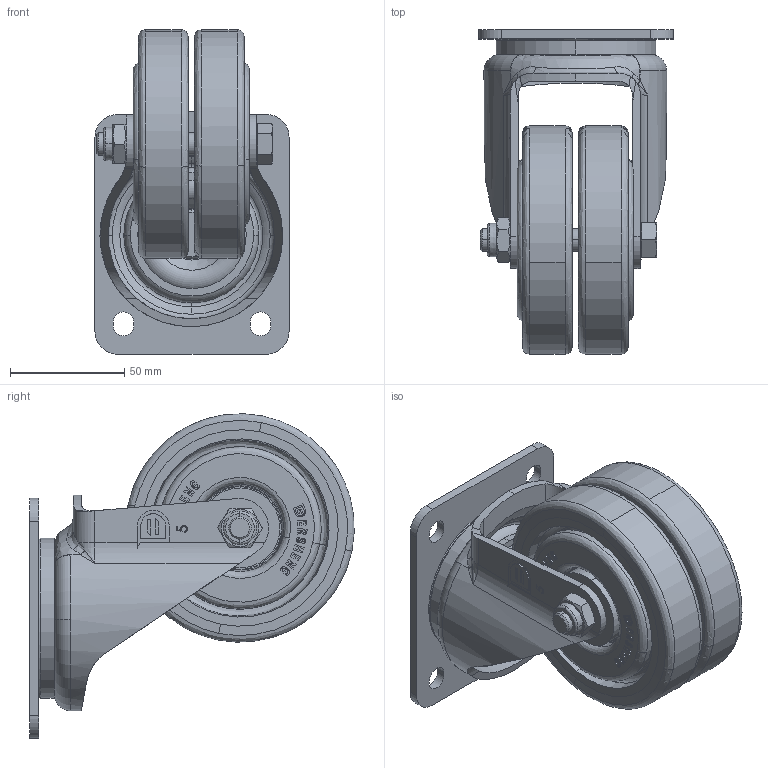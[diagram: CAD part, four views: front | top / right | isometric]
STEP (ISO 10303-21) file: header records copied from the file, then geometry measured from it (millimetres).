
FILE_DESCRIPTION (( 'STEP AP203' ), '1' );
FILE_NAME ('68ÏµÁÐ -šWÒŽµ×°å4´ç»î„ÓAQPUÝ†.STEP', '2025-07-18T03:52:29', ( '' ), ( '' ), 'SwSTEP 2.0', 'SolidWorks 2021', '' );
FILE_SCHEMA (( 'CONFIG_CONTROL_DESIGN' ));
Length unit declared in the file: millimetre
Products named in the file (6): 5_____}; ___O; 4寸ZQPU輪SLDPRT; hexagon head bolts gb_GB_FASTENER_BOLT_SB A M10X70-N_1; M10_2_1; 68系列 -歐規底板4寸活動AQPU輪
Assembly tree (5 placements, depth 2):
  68系列 -歐規底板4寸活動AQPU輪
    ___O
    5_____}
    hexagon head bolts gb_GB_FASTENER_BOLT_SB A M10X70-N_1
    M10_2_1
    4寸ZQPU輪SLDPRT
Bounding box: 85 x 141.99 x 142.04 mm (x, y, z)
Volume: 124520.4 mm3; surface area: 112542.3 mm2
Topology: 4 solids, 10 shells, 1029 faces, 3174 edges, 2095 vertices
Faces by surface type: plane 441, cylinder 390, bspline 69, torus 64, cone 63, sphere 2
Entity records: 43435 total; most frequent: CARTESIAN_POINT 14327, DIRECTION 6149, ORIENTED_EDGE 5812, EDGE_CURVE 3164, AXIS2_PLACEMENT_3D 2245, VERTEX_POINT 2095, LINE 1659, VECTOR 1659
